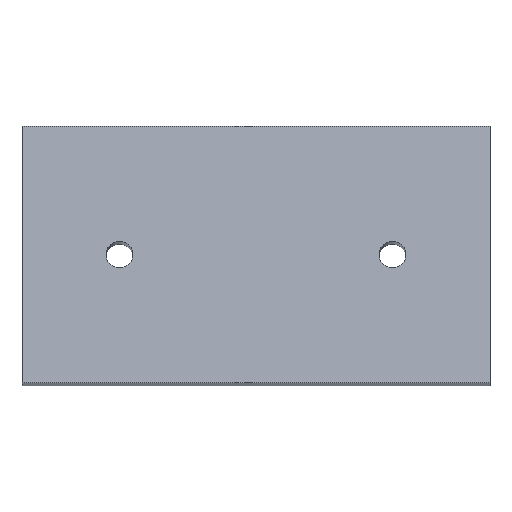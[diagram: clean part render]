
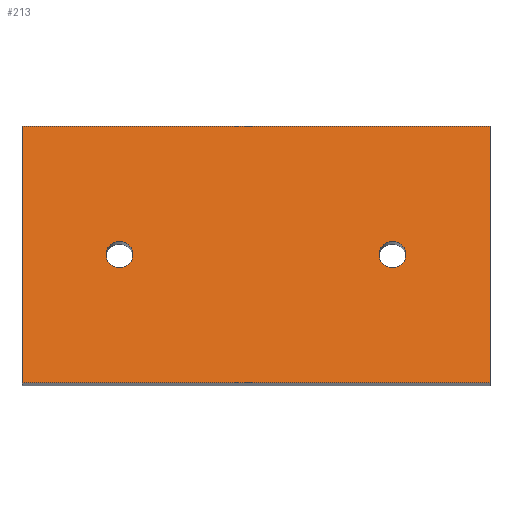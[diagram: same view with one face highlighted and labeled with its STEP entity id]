
A CAD part, front view. The second image highlights one B-rep face of the part: STEP entity #213.
In plain terms, the highlighted planar face has unit normal (0, -0.985, 0.174).
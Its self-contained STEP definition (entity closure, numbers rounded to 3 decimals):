
#37=CARTESIAN_POINT('',(-310.5,-16.243,899.267));
#38=VERTEX_POINT('',#37);
#45=CARTESIAN_POINT('',(-406.5,-16.243,899.267));
#46=VERTEX_POINT('',#45);
#47=CARTESIAN_POINT('',(-406.5,-16.243,899.267));
#48=DIRECTION('',(1.0,0.0,0.0));
#49=VECTOR('',#48,1.);
#50=LINE('',#47,#49);
#51=EDGE_CURVE('',#46,#38,#50,.T.);
#75=CARTESIAN_POINT('',(-310.5,-6.953,951.955));
#76=VERTEX_POINT('',#75);
#83=CARTESIAN_POINT('',(-310.5,-16.243,899.267));
#84=DIRECTION('',(0.,0.174,0.985));
#85=VECTOR('',#84,1.);
#86=LINE('',#83,#85);
#87=EDGE_CURVE('',#38,#76,#86,.T.);
#106=CARTESIAN_POINT('',(-406.5,-6.953,951.955));
#107=VERTEX_POINT('',#106);
#114=CARTESIAN_POINT('',(-310.5,-6.953,951.955));
#115=DIRECTION('',(-1.0,0.,0.));
#116=VECTOR('',#115,1.);
#117=LINE('',#114,#116);
#118=EDGE_CURVE('',#76,#107,#117,.T.);
#136=CARTESIAN_POINT('',(-406.5,-6.953,951.955));
#137=DIRECTION('',(0.,-0.174,-0.985));
#138=VECTOR('',#137,1.);
#139=LINE('',#136,#138);
#140=EDGE_CURVE('',#107,#46,#139,.T.);
#180=CARTESIAN_POINT('',(-406.5,-16.243,899.267));
#181=DIRECTION('',(0.0,-0.985,0.174));
#182=DIRECTION('',(1.0,0.0,0.0));
#183=AXIS2_PLACEMENT_3D('',#180,#181,#182);
#184=PLANE('',#183);
#185=ORIENTED_EDGE('',*,*,#51,.T.);
#186=ORIENTED_EDGE('',*,*,#87,.T.);
#187=ORIENTED_EDGE('',*,*,#118,.T.);
#188=ORIENTED_EDGE('',*,*,#140,.T.);
#189=EDGE_LOOP('',(#185,#186,#187,#188));
#190=FACE_OUTER_BOUND('',#189,.T.);
#191=CARTESIAN_POINT('',(-383.75,-11.598,925.611));
#192=VERTEX_POINT('',#191);
#193=CARTESIAN_POINT('',(-386.5,-11.598,925.611));
#194=DIRECTION('',(0.0,0.985,-0.174));
#195=DIRECTION('',(1.0,0.0,0.0));
#196=AXIS2_PLACEMENT_3D('',#193,#194,#195);
#197=CIRCLE('',#196,2.75);
#198=EDGE_CURVE('',#192,#192,#197,.T.);
#199=ORIENTED_EDGE('',*,*,#198,.T.);
#200=EDGE_LOOP('',(#199));
#201=FACE_BOUND('',#200,.T.);
#202=CARTESIAN_POINT('',(-327.75,-11.598,925.611));
#203=VERTEX_POINT('',#202);
#204=CARTESIAN_POINT('',(-330.5,-11.598,925.611));
#205=DIRECTION('',(0.0,0.985,-0.174));
#206=DIRECTION('',(1.0,0.0,0.0));
#207=AXIS2_PLACEMENT_3D('',#204,#205,#206);
#208=CIRCLE('',#207,2.75);
#209=EDGE_CURVE('',#203,#203,#208,.T.);
#210=ORIENTED_EDGE('',*,*,#209,.T.);
#211=EDGE_LOOP('',(#210));
#212=FACE_BOUND('',#211,.T.);
#213=ADVANCED_FACE('',(#190,#201,#212),#184,.T.);
